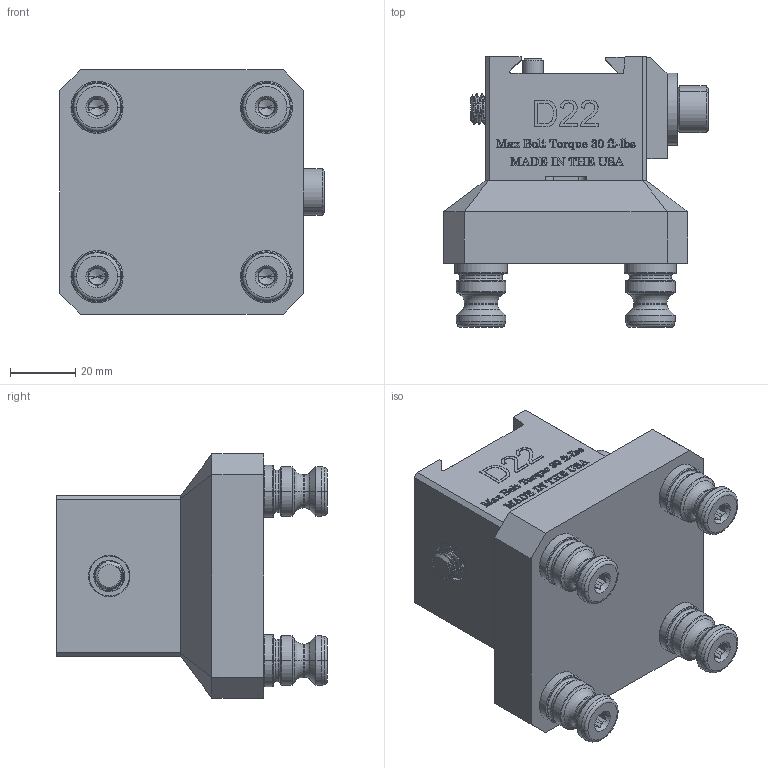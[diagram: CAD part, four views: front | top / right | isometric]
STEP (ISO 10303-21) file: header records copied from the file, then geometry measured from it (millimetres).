
FILE_DESCRIPTION (( 'STEP AP214' ), '1' );
FILE_NAME ('R52-D22.STEP', '2019-05-12T16:56:54', ( '' ), ( '' ), 'SwSTEP 2.0', 'SolidWorks 2018', '' );
FILE_SCHEMA (( 'AUTOMOTIVE_DESIGN' ));
Length unit declared in the file: millimetre
Products named in the file (16): 72170_DEFAULT; SLD375_SLD375; CDM375; HW.0406X0875.FW_DEFAULT; HW.0480X0625.CS_DEFAULT; .375-16 TIME SERT_03819; LP375_NO THREADS; LP250_NO THREADS ; D221M-1_D221M; PS16F; HW.39858.CPSS_M8X1.25X20MM; PS16F-1_PS16F; R52-D22-1; R52-D22; D22; 72132_91251A587
Assembly tree (20 placements, depth 3):
  R52-D22
    R52-D22-1
    PS16F  x4
      PS16F-1_PS16F
      HW.39858.CPSS_M8X1.25X20MM
    D22
      D221M-1_D221M
      LP250_NO THREADS 
      LP375_NO THREADS  x2
      .375-16 TIME SERT_03819
      HW.0480X0625.CS_DEFAULT
      HW.0406X0875.FW_DEFAULT
      CDM375
      SLD375_SLD375
      72170_DEFAULT
      72132_91251A587  x2
Bounding box: 81.31 x 83.06 x 75 mm (x, y, z)
Volume: 223144.7 mm3; surface area: 67198.3 mm2
Topology: 21 solids, 21 shells, 2309 faces, 6058 edges, 3886 vertices
Faces by surface type: plane 893, cylinder 630, bspline 451, cone 223, torus 112
Entity records: 92167 total; most frequent: CARTESIAN_POINT 41783, ORIENTED_EDGE 9070, DIRECTION 6132, EDGE_CURVE 4535, VERTEX_POINT 2975, VECTOR 2694, LINE 2694, EDGE_LOOP 1840
